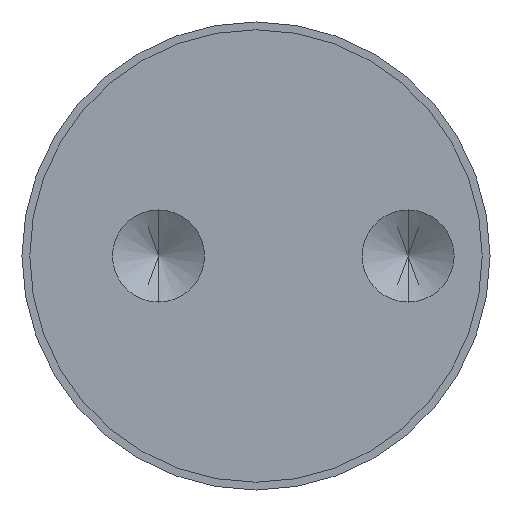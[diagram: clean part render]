
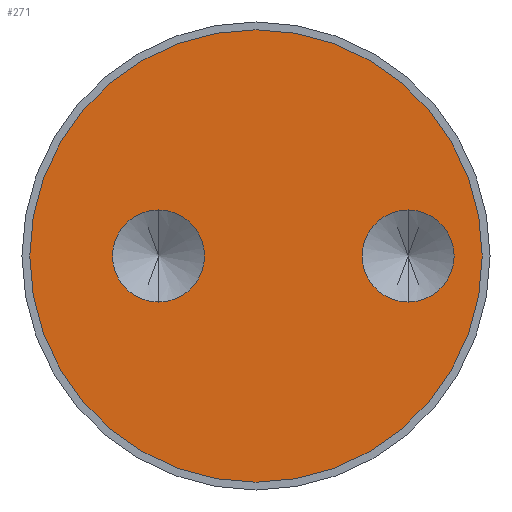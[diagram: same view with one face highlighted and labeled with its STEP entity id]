
A CAD part, front view. The second image highlights one B-rep face of the part: STEP entity #271.
In plain terms, the highlighted planar face has unit normal (0, -1, 0).
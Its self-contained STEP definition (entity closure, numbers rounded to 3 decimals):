
#6 = DIRECTION ( 'NONE',  ( 0., 0., 1. ) ) ;
#30 = FACE_BOUND ( 'NONE', #588, .T. ) ;
#41 = CARTESIAN_POINT ( 'NONE',  ( 19.5, 0., 5.9 ) ) ;
#60 = AXIS2_PLACEMENT_3D ( 'NONE', #592, #170, #795 ) ;
#70 = EDGE_CURVE ( 'NONE', #409, #222, #308, .T. ) ;
#86 = ORIENTED_EDGE ( 'NONE', *, *, #673, .F. ) ;
#88 = DIRECTION ( 'NONE',  ( 0., 1., 0. ) ) ;
#95 = FACE_OUTER_BOUND ( 'NONE', #689, .T. ) ;
#101 = EDGE_CURVE ( 'NONE', #309, #731, #245, .T. ) ;
#109 = PLANE ( 'NONE',  #855 ) ;
#121 = DIRECTION ( 'NONE',  ( 0., -1., 0. ) ) ;
#144 = AXIS2_PLACEMENT_3D ( 'NONE', #307, #790, #497 ) ;
#170 = DIRECTION ( 'NONE',  ( 0., -1., 0. ) ) ;
#179 = CARTESIAN_POINT ( 'NONE',  ( -12.5, 0., -5.9 ) ) ;
#211 = CIRCLE ( 'NONE', #60, 5.9 ) ;
#222 = VERTEX_POINT ( 'NONE', #433 ) ;
#234 = DIRECTION ( 'NONE',  ( 0., 0., 1. ) ) ;
#236 = AXIS2_PLACEMENT_3D ( 'NONE', #505, #121, #870 ) ;
#245 = CIRCLE ( 'NONE', #144, 5.9 ) ;
#271 = ADVANCED_FACE ( 'NONE', ( #761, #30, #95 ), #109, .F. ) ;
#283 = EDGE_CURVE ( 'NONE', #556, #339, #319, .T. ) ;
#285 = AXIS2_PLACEMENT_3D ( 'NONE', #873, #808, #605 ) ;
#307 = CARTESIAN_POINT ( 'NONE',  ( 19.5, 0., 0. ) ) ;
#308 = CIRCLE ( 'NONE', #782, 29. ) ;
#309 = VERTEX_POINT ( 'NONE', #41 ) ;
#319 = CIRCLE ( 'NONE', #236, 5.9 ) ;
#331 = CARTESIAN_POINT ( 'NONE',  ( 0., 0., 29. ) ) ;
#338 = CIRCLE ( 'NONE', #703, 29. ) ;
#339 = VERTEX_POINT ( 'NONE', #179 ) ;
#375 = DIRECTION ( 'NONE',  ( 0., 1., 0. ) ) ;
#409 = VERTEX_POINT ( 'NONE', #331 ) ;
#411 = DIRECTION ( 'NONE',  ( 0., 1., 0. ) ) ;
#433 = CARTESIAN_POINT ( 'NONE',  ( 0., 0., -29. ) ) ;
#479 = EDGE_CURVE ( 'NONE', #731, #309, #211, .T. ) ;
#497 = DIRECTION ( 'NONE',  ( 0., 0., -1. ) ) ;
#499 = CARTESIAN_POINT ( 'NONE',  ( 0., 0., 0. ) ) ;
#505 = CARTESIAN_POINT ( 'NONE',  ( -12.5, 0., 0. ) ) ;
#512 = ORIENTED_EDGE ( 'NONE', *, *, #479, .F. ) ;
#529 = CARTESIAN_POINT ( 'NONE',  ( 19.5, 0., -5.9 ) ) ;
#556 = VERTEX_POINT ( 'NONE', #734 ) ;
#560 = CARTESIAN_POINT ( 'NONE',  ( 0., 0., 0. ) ) ;
#588 = EDGE_LOOP ( 'NONE', ( #512, #762 ) ) ;
#592 = CARTESIAN_POINT ( 'NONE',  ( 19.5, 0., 0. ) ) ;
#605 = DIRECTION ( 'NONE',  ( 0., 0., -1. ) ) ;
#611 = ORIENTED_EDGE ( 'NONE', *, *, #70, .F. ) ;
#657 = ORIENTED_EDGE ( 'NONE', *, *, #283, .F. ) ;
#673 = EDGE_CURVE ( 'NONE', #339, #556, #826, .T. ) ;
#689 = EDGE_LOOP ( 'NONE', ( #710, #611 ) ) ;
#703 = AXIS2_PLACEMENT_3D ( 'NONE', #753, #411, #6 ) ;
#710 = ORIENTED_EDGE ( 'NONE', *, *, #746, .F. ) ;
#721 = EDGE_LOOP ( 'NONE', ( #86, #657 ) ) ;
#731 = VERTEX_POINT ( 'NONE', #529 ) ;
#734 = CARTESIAN_POINT ( 'NONE',  ( -12.5, 0., 5.9 ) ) ;
#746 = EDGE_CURVE ( 'NONE', #222, #409, #338, .T. ) ;
#753 = CARTESIAN_POINT ( 'NONE',  ( 0., 0., 0. ) ) ;
#761 = FACE_BOUND ( 'NONE', #721, .T. ) ;
#762 = ORIENTED_EDGE ( 'NONE', *, *, #101, .F. ) ;
#782 = AXIS2_PLACEMENT_3D ( 'NONE', #560, #88, #842 ) ;
#790 = DIRECTION ( 'NONE',  ( 0., -1., 0. ) ) ;
#795 = DIRECTION ( 'NONE',  ( 0., 0., -1. ) ) ;
#808 = DIRECTION ( 'NONE',  ( 0., -1., 0. ) ) ;
#826 = CIRCLE ( 'NONE', #285, 5.9 ) ;
#842 = DIRECTION ( 'NONE',  ( 0., 0., 1. ) ) ;
#855 = AXIS2_PLACEMENT_3D ( 'NONE', #499, #375, #234 ) ;
#870 = DIRECTION ( 'NONE',  ( 0., 0., -1. ) ) ;
#873 = CARTESIAN_POINT ( 'NONE',  ( -12.5, 0., 0. ) ) ;
